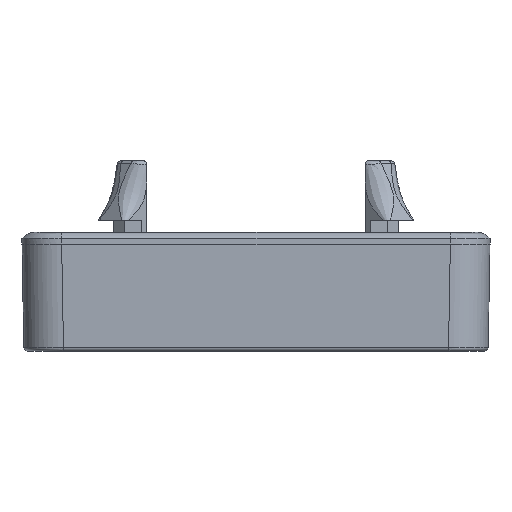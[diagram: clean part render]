
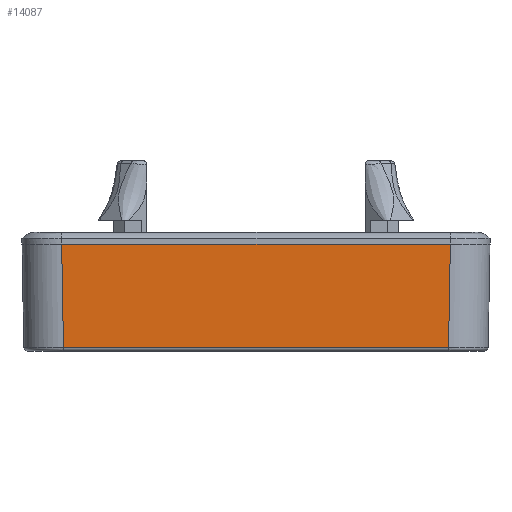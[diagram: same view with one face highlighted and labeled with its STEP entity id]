
A CAD part, left-side view. The second image highlights one B-rep face of the part: STEP entity #14087.
In plain terms, the highlighted planar face has unit normal (-1, 0, -0.018).
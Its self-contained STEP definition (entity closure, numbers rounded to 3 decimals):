
#10537=LINE('',#47242,#12203);
#10540=LINE('',#47286,#12206);
#10545=LINE('',#47347,#12211);
#10546=LINE('',#47348,#12212);
#12203=VECTOR('',#37796,1.);
#12206=VECTOR('',#37801,1.);
#12211=VECTOR('',#37812,1.);
#12212=VECTOR('',#37813,1.);
#14087=ADVANCED_FACE('',(#16174),#15411,.F.);
#15411=PLANE('',#35104);
#16174=FACE_OUTER_BOUND('',#17513,.T.);
#17513=EDGE_LOOP('',(#21289,#21290,#21291,#21292));
#21289=ORIENTED_EDGE('',*,*,#30541,.T.);
#21290=ORIENTED_EDGE('',*,*,#30555,.T.);
#21291=ORIENTED_EDGE('',*,*,#30532,.T.);
#21292=ORIENTED_EDGE('',*,*,#30556,.F.);
#27820=VERTEX_POINT('',#47243);
#27821=VERTEX_POINT('',#47244);
#27829=VERTEX_POINT('',#47285);
#27830=VERTEX_POINT('',#47287);
#30532=EDGE_CURVE('',#27820,#27821,#10537,.T.);
#30541=EDGE_CURVE('',#27830,#27829,#10540,.T.);
#30555=EDGE_CURVE('',#27829,#27820,#10545,.T.);
#30556=EDGE_CURVE('',#27830,#27821,#10546,.T.);
#35104=AXIS2_PLACEMENT_3D('',#47349,#37814,#37815);
#37796=DIRECTION('',(-0.017,-0.017,1.));
#37801=DIRECTION('',(0.017,-0.017,-1.));
#37812=DIRECTION('',(0.,-1.,0.));
#37813=DIRECTION('',(0.,-1.,0.));
#37814=DIRECTION('',(1.,0.,0.017));
#37815=DIRECTION('',(-0.017,0.,1.));
#47242=CARTESIAN_POINT('',(-73.493,-24.493,13.073));
#47243=CARTESIAN_POINT('',(-73.273,-24.274,0.491));
#47244=CARTESIAN_POINT('',(-73.5,-24.501,13.5));
#47285=CARTESIAN_POINT('',(-73.273,24.274,0.491));
#47286=CARTESIAN_POINT('',(-73.493,24.493,13.073));
#47287=CARTESIAN_POINT('',(-73.5,24.501,13.5));
#47347=CARTESIAN_POINT('',(-73.273,0.,0.491));
#47348=CARTESIAN_POINT('',(-73.5,0.,13.5));
#47349=CARTESIAN_POINT('',(-73.5,0.,13.5));
